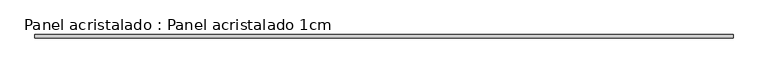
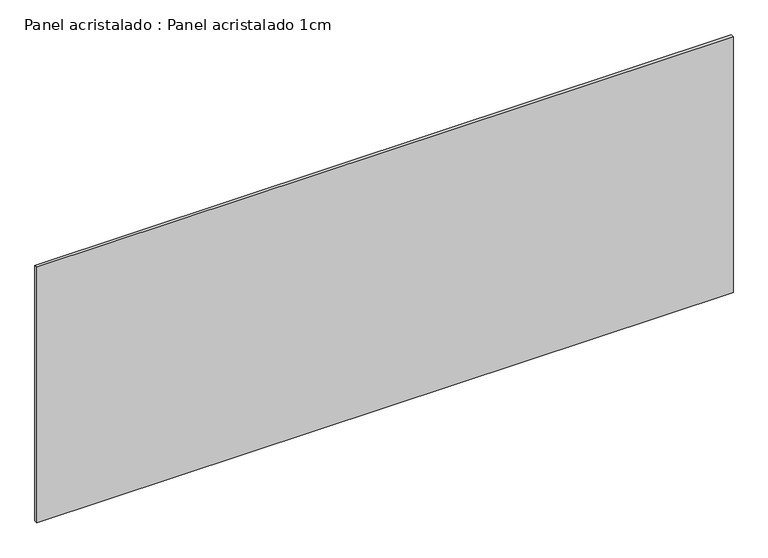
"""IFC4 building model written with IfcOpenShell, lengths in millimetres: plate geometry, Panel acristalado : Panel acristalado 1cm."""

from ifc_helpers import new_model, si_unit, origin, origin_with_axes, place, context, project, spatial, polyline, outline, extrude, source, transform, mapped, element, save


def panel_acristalado_panel_acristalado_1cm_96538285(model_context):
    return source(origin(), model_context, "Body", "SweptSolid", [
        extrude(outline(polyline([(1093.6476925, -20.0), (1093.6476925, -30.0), (-1093.6476925, -30.0), (-1093.6476925, -20.0), (1093.6476925, -20.0)])), origin_with_axes(), (0.0, 0.0, 1.0), 850.0),
    ])


if __name__ == "__main__":
    model = new_model("IFC4")
    model_context = context("Model", 3, world=origin())
    ifc_project = project(units=[si_unit("LENGTHUNIT", "METRE", prefix="MILLI")], contexts=[model_context])
    site = spatial("IfcSite", under=ifc_project)
    building = spatial("IfcBuilding", under=site)
    placement = place(None, origin())
    panel_acristalado_panel_acristalado_1cm_shape = panel_acristalado_panel_acristalado_1cm_96538285(model_context)
    element("IfcPlate", 1, ObjectType="Panel acristalado : Panel acristalado 1cm", at=placement, inside=building, context=model_context, shape_type="MappedRepresentation", body=[
        mapped(panel_acristalado_panel_acristalado_1cm_shape, transform((0.0, 0.0, 0.0), x_axis=(1.0, 0.0, 0.0), y_axis=(0.0, 1.0, 0.0), z_axis=(0.0, 0.0, 1.0))),
    ])
    save(model, "model.ifc")
